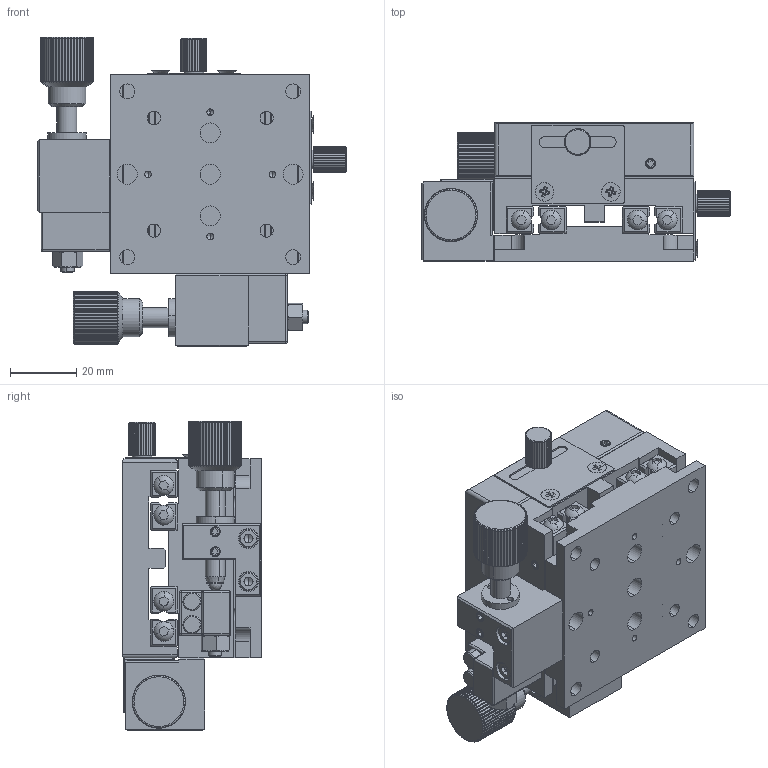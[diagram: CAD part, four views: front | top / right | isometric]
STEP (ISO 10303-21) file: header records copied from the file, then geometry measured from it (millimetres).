
FILE_DESCRIPTION (( 'STEP AP203' ), '1' );
FILE_NAME ('M-TS60XY-05A.STEP', '2017-02-24T08:07:11', ( '' ), ( '' ), 'SwSTEP 2.0', 'SolidWorks 2012', '' );
FILE_SCHEMA (( 'CONFIG_CONTROL_DESIGN' ));
Length unit declared in the file: millimetre
Products named in the file (18): M-TS60XY-05A; M6X30L; M3止付_B18.3.6M - M4 x 0.7 x 20 Hex Socket Flat Pt. SS --N; M10X1P-11L銅座; TS60中板; M3止付_B18.3.6M - M3 x 0.5 x 3 Hex Socket Flat Pt. SS --N; M4螺帽_B18.2.4.1M - Hex nut, Style 1,  M5 x 0.8 --D-N; M3x20L_B18.3.1M - 3 x 0.5 x 12 Hex SHCS -- 12NHX; M3x20L_B18.3.1M - 3 x 0.5 x 20 Hex SHCS -- 20NHX; TS60頂點座; TS60面板; TS-60-1; TS60側推分厘卡座; 固定片2; TS60底板; M3圓頭; ψ7.5X11.5L; M3皿頭
Assembly tree (71 placements, depth 2):
  M-TS60XY-05A
    ψ7.5X11.5L  x2
    M3皿頭  x4
    M3圓頭  x16
    固定片2  x2
    TS60底板
    TS60面板
    TS60側推分厘卡座  x2
    TS60頂點座  x2
    TS-60-1  x8
    M3止付_B18.3.6M - M3 x 0.5 x 3 Hex Socket Flat Pt. SS --N  x16
    M3x20L_B18.3.1M - 3 x 0.5 x 20 Hex SHCS -- 20NHX  x4
    M3x20L_B18.3.1M - 3 x 0.5 x 12 Hex SHCS -- 12NHX  x4
    M4螺帽_B18.2.4.1M - Hex nut, Style 1,  M5 x 0.8 --D-N  x2
    M3止付_B18.3.6M - M4 x 0.7 x 20 Hex Socket Flat Pt. SS --N  x2
    TS60中板
    M10X1P-11L銅座  x2
    M6X30L  x2
Bounding box: 93 x 42 x 93.35 mm (x, y, z)
Volume: 154446.2 mm3; surface area: 84131.8 mm2
Topology: 71 solids, 71 shells, 2613 faces, 6468 edges, 4009 vertices
Faces by surface type: plane 1352, cylinder 859, cone 326, torus 52, sphere 24
Entity records: 39544 total; most frequent: CARTESIAN_POINT 7672, DIRECTION 6098, ORIENTED_EDGE 5800, EDGE_CURVE 2900, AXIS2_PLACEMENT_3D 2317, VERTEX_POINT 1869, VECTOR 1464, LINE 1464
